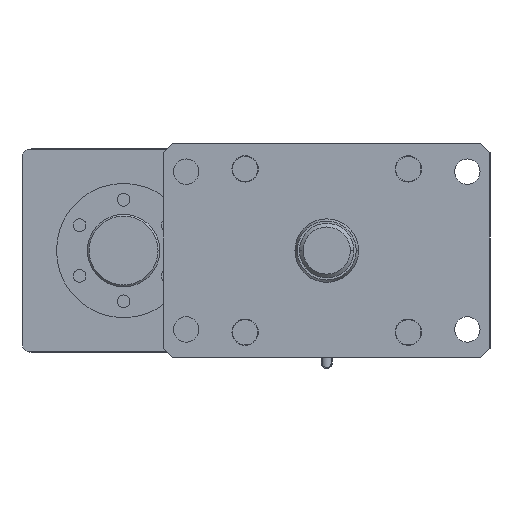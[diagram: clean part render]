
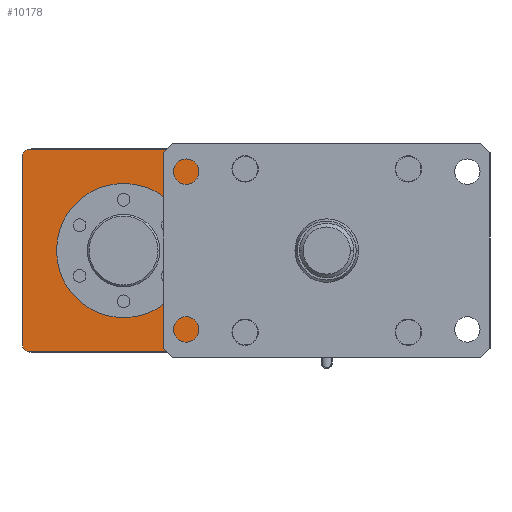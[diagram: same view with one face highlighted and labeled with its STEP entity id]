
A CAD part, front view. The second image highlights one B-rep face of the part: STEP entity #10178.
In plain terms, the highlighted planar face has unit normal (0, -1, 0).
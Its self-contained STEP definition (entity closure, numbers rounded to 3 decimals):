
#190 = DIRECTION ( 'NONE',  ( 0., 1., 0. ) ) ;
#634 = AXIS2_PLACEMENT_3D ( 'NONE', #8801, #1414, #10059 ) ;
#757 = AXIS2_PLACEMENT_3D ( 'NONE', #13910, #6466, #15168 ) ;
#840 = VERTEX_POINT ( 'NONE', #2726 ) ;
#892 = CARTESIAN_POINT ( 'NONE',  ( -167.8, 0., 56. ) ) ;
#921 = VECTOR ( 'NONE', #6017, 1000. ) ;
#1128 = EDGE_CURVE ( 'NONE', #15326, #12007, #2313, .T. ) ;
#1227 = CIRCLE ( 'NONE', #1391, 5. ) ;
#1263 = CARTESIAN_POINT ( 'NONE',  ( -56.2, 0., 52.4 ) ) ;
#1391 = AXIS2_PLACEMENT_3D ( 'NONE', #4659, #13303, #5888 ) ;
#1414 = DIRECTION ( 'NONE',  ( 0., -1., 0. ) ) ;
#1440 = LINE ( 'NONE', #4221, #9367 ) ;
#2241 = EDGE_CURVE ( 'NONE', #15642, #840, #11979, .T. ) ;
#2313 = LINE ( 'NONE', #892, #11042 ) ;
#2332 = CARTESIAN_POINT ( 'NONE',  ( -56.2, 0., 56. ) ) ;
#2726 = CARTESIAN_POINT ( 'NONE',  ( -59.6, 0., 55.8 ) ) ;
#3256 = VERTEX_POINT ( 'NONE', #7629 ) ;
#4193 = AXIS2_PLACEMENT_3D ( 'NONE', #15074, #190, #8862 ) ;
#4221 = CARTESIAN_POINT ( 'NONE',  ( -168., 0., -55.8 ) ) ;
#4457 = DIRECTION ( 'NONE',  ( 0., -1., 0. ) ) ;
#4659 = CARTESIAN_POINT ( 'NONE',  ( -163., 0., 51. ) ) ;
#4870 = EDGE_CURVE ( 'NONE', #11210, #15957, #8268, .T. ) ;
#4932 = EDGE_CURVE ( 'NONE', #3256, #15642, #14494, .T. ) ;
#5030 = ORIENTED_EDGE ( 'NONE', *, *, #6821, .T. ) ;
#5397 = CARTESIAN_POINT ( 'NONE',  ( -164.4, 0., -55.8 ) ) ;
#5888 = DIRECTION ( 'NONE',  ( -1., 0., 0. ) ) ;
#6017 = DIRECTION ( 'NONE',  ( 0., 0., 1. ) ) ;
#6064 = ORIENTED_EDGE ( 'NONE', *, *, #14302, .T. ) ;
#6466 = DIRECTION ( 'NONE',  ( 0., -1., 0. ) ) ;
#6728 = EDGE_CURVE ( 'NONE', #7039, #15326, #1227, .T. ) ;
#6754 = ORIENTED_EDGE ( 'NONE', *, *, #8246, .T. ) ;
#6821 = EDGE_CURVE ( 'NONE', #840, #7039, #9915, .T. ) ;
#7039 = VERTEX_POINT ( 'NONE', #11516 ) ;
#7143 = CARTESIAN_POINT ( 'NONE',  ( -112., 0., 0. ) ) ;
#7410 = CARTESIAN_POINT ( 'NONE',  ( -167.8, 0., -52.4 ) ) ;
#7612 = PLANE ( 'NONE',  #4193 ) ;
#7629 = CARTESIAN_POINT ( 'NONE',  ( -56.2, 0., -55.8 ) ) ;
#7932 = CARTESIAN_POINT ( 'NONE',  ( -167.8, 0., 52.4 ) ) ;
#8246 = EDGE_CURVE ( 'NONE', #12007, #8672, #9874, .T. ) ;
#8268 = CIRCLE ( 'NONE', #13398, 37. ) ;
#8299 = DIRECTION ( 'NONE',  ( 0., 0., -1. ) ) ;
#8311 = ORIENTED_EDGE ( 'NONE', *, *, #4932, .T. ) ;
#8391 = DIRECTION ( 'NONE',  ( -1., 0., 0. ) ) ;
#8507 = ORIENTED_EDGE ( 'NONE', *, *, #2241, .T. ) ;
#8672 = VERTEX_POINT ( 'NONE', #5397 ) ;
#8801 = CARTESIAN_POINT ( 'NONE',  ( -163., 0., -51. ) ) ;
#8862 = DIRECTION ( 'NONE',  ( -1., 0., 0. ) ) ;
#9167 = EDGE_CURVE ( 'NONE', #15957, #11210, #9440, .T. ) ;
#9367 = VECTOR ( 'NONE', #15391, 1000. ) ;
#9440 = CIRCLE ( 'NONE', #757, 37. ) ;
#9546 = VECTOR ( 'NONE', #13526, 1000. ) ;
#9874 = CIRCLE ( 'NONE', #634, 5. ) ;
#9915 = LINE ( 'NONE', #12277, #9546 ) ;
#10059 = DIRECTION ( 'NONE',  ( -1., 0., 0. ) ) ;
#10178 = ADVANCED_FACE ( 'NONE', ( #11944, #15629 ), #7612, .F. ) ;
#11042 = VECTOR ( 'NONE', #8299, 1000. ) ;
#11210 = VERTEX_POINT ( 'NONE', #14365 ) ;
#11516 = CARTESIAN_POINT ( 'NONE',  ( -164.4, 0., 55.8 ) ) ;
#11870 = CARTESIAN_POINT ( 'NONE',  ( -61., 0., 51. ) ) ;
#11944 = FACE_OUTER_BOUND ( 'NONE', #13967, .T. ) ;
#11979 = CIRCLE ( 'NONE', #14405, 5. ) ;
#12007 = VERTEX_POINT ( 'NONE', #7410 ) ;
#12064 = ORIENTED_EDGE ( 'NONE', *, *, #6728, .T. ) ;
#12107 = CARTESIAN_POINT ( 'NONE',  ( -112., 0., -37. ) ) ;
#12277 = CARTESIAN_POINT ( 'NONE',  ( -168., 0., 55.8 ) ) ;
#13104 = DIRECTION ( 'NONE',  ( -1., 0., 0. ) ) ;
#13303 = DIRECTION ( 'NONE',  ( 0., -1., 0. ) ) ;
#13398 = AXIS2_PLACEMENT_3D ( 'NONE', #7143, #15832, #8391 ) ;
#13526 = DIRECTION ( 'NONE',  ( -1., 0., 0. ) ) ;
#13910 = CARTESIAN_POINT ( 'NONE',  ( -112., 0., 0. ) ) ;
#13967 = EDGE_LOOP ( 'NONE', ( #8311, #8507, #5030, #12064, #14661, #6754, #6064 ) ) ;
#14038 = ORIENTED_EDGE ( 'NONE', *, *, #9167, .F. ) ;
#14302 = EDGE_CURVE ( 'NONE', #8672, #3256, #1440, .T. ) ;
#14365 = CARTESIAN_POINT ( 'NONE',  ( -112., 0., 37. ) ) ;
#14405 = AXIS2_PLACEMENT_3D ( 'NONE', #11870, #4457, #13104 ) ;
#14494 = LINE ( 'NONE', #2332, #921 ) ;
#14560 = ORIENTED_EDGE ( 'NONE', *, *, #4870, .F. ) ;
#14661 = ORIENTED_EDGE ( 'NONE', *, *, #1128, .T. ) ;
#15074 = CARTESIAN_POINT ( 'NONE',  ( -168., 0., 56. ) ) ;
#15168 = DIRECTION ( 'NONE',  ( -1., 0., 0. ) ) ;
#15326 = VERTEX_POINT ( 'NONE', #7932 ) ;
#15332 = EDGE_LOOP ( 'NONE', ( #14560, #14038 ) ) ;
#15391 = DIRECTION ( 'NONE',  ( 1., 0., 0. ) ) ;
#15629 = FACE_BOUND ( 'NONE', #15332, .T. ) ;
#15642 = VERTEX_POINT ( 'NONE', #1263 ) ;
#15832 = DIRECTION ( 'NONE',  ( 0., -1., 0. ) ) ;
#15957 = VERTEX_POINT ( 'NONE', #12107 ) ;
